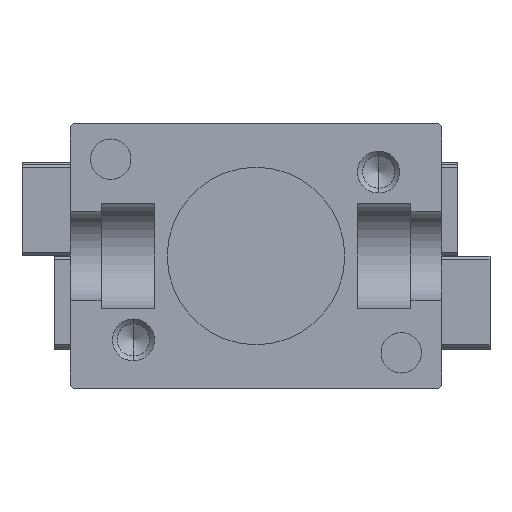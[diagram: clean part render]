
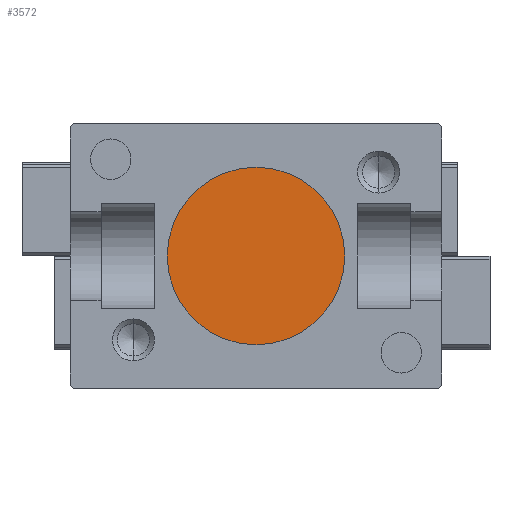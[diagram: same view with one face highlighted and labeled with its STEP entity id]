
A CAD part, front view. The second image highlights one B-rep face of the part: STEP entity #3572.
In plain terms, the highlighted planar face has unit normal (0, -1, 0).
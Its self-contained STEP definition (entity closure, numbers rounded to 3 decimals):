
#2993 = AXIS2_PLACEMENT_3D ( 'NONE', #36108, #14615, #39714 ) ;
#3570 = EDGE_CURVE ( 'NONE', #6538, #4508, #38820, .T. ) ;
#3572 = ADVANCED_FACE ( 'NONE', ( #18627 ), #7483, .T. ) ;
#4508 = VERTEX_POINT ( 'NONE', #37576 ) ;
#6538 = VERTEX_POINT ( 'NONE', #28810 ) ;
#6926 = EDGE_CURVE ( 'NONE', #4508, #6538, #37574, .T. ) ;
#7483 = PLANE ( 'NONE',  #29213 ) ;
#9747 = ORIENTED_EDGE ( 'NONE', *, *, #3570, .T. ) ;
#11132 = CARTESIAN_POINT ( 'NONE',  ( 0., 2., 0. ) ) ;
#14615 = DIRECTION ( 'NONE',  ( 0., -1., 0. ) ) ;
#14764 = DIRECTION ( 'NONE',  ( 1., 0., 0. ) ) ;
#18384 = DIRECTION ( 'NONE',  ( 1., 0., 0. ) ) ;
#18627 = FACE_OUTER_BOUND ( 'NONE', #25856, .T. ) ;
#19579 = AXIS2_PLACEMENT_3D ( 'NONE', #11132, #36261, #14764 ) ;
#25442 = CARTESIAN_POINT ( 'NONE',  ( 0., 2., 0. ) ) ;
#25664 = ORIENTED_EDGE ( 'NONE', *, *, #6926, .T. ) ;
#25856 = EDGE_LOOP ( 'NONE', ( #9747, #25664 ) ) ;
#28810 = CARTESIAN_POINT ( 'NONE',  ( 5.5, 2., 0. ) ) ;
#29213 = AXIS2_PLACEMENT_3D ( 'NONE', #25442, #39863, #18384 ) ;
#36108 = CARTESIAN_POINT ( 'NONE',  ( 0., 2., 0. ) ) ;
#36261 = DIRECTION ( 'NONE',  ( 0., -1., 0. ) ) ;
#37574 = CIRCLE ( 'NONE', #2993, 5.5 ) ;
#37576 = CARTESIAN_POINT ( 'NONE',  ( -5.5, 2., 0. ) ) ;
#38820 = CIRCLE ( 'NONE', #19579, 5.5 ) ;
#39714 = DIRECTION ( 'NONE',  ( 1., 0., 0. ) ) ;
#39863 = DIRECTION ( 'NONE',  ( 0., -1., 0. ) ) ;
